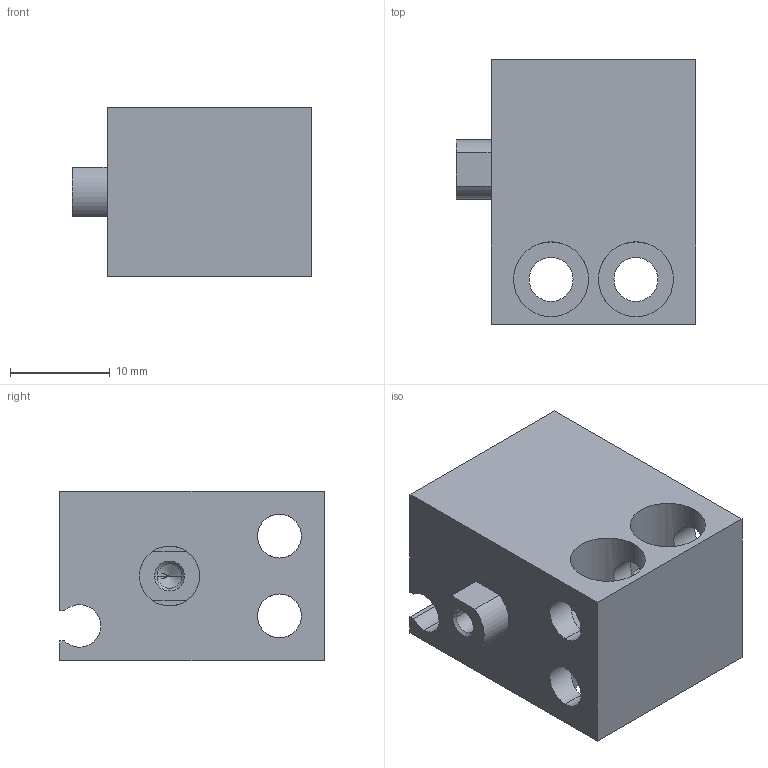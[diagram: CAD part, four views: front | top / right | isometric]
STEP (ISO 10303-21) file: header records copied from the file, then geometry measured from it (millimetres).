
FILE_DESCRIPTION (( 'STEP AP203' ), '1' );
FILE_NAME ('CLJB12-5.STEP', '2020-07-30T18:49:11', ( '' ), ( '' ), 'SwSTEP 2.0', 'SolidWorks 2019', '' );
FILE_SCHEMA (( 'CONFIG_CONTROL_DESIGN' ));
Length unit declared in the file: millimetre
Products named in the file (1): CLJB12-5
Bounding box: 24 x 26.5 x 17 mm (x, y, z)
Volume: 7025.4 mm3; surface area: 4760.7 mm2
Topology: 2 solids, 2 shells, 75 faces, 188 edges, 113 vertices
Faces by surface type: cylinder 41, plane 22, cone 12
Entity records: 3119 total; most frequent: CARTESIAN_POINT 1223, DIRECTION 394, ORIENTED_EDGE 364, EDGE_CURVE 182, AXIS2_PLACEMENT_3D 152, VERTEX_POINT 113, EDGE_LOOP 93, LINE 90
